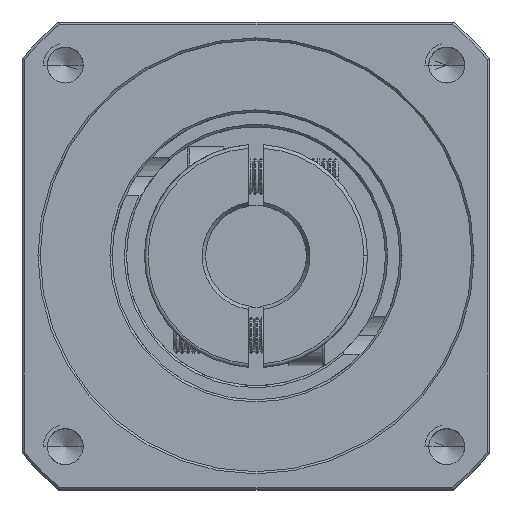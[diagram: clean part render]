
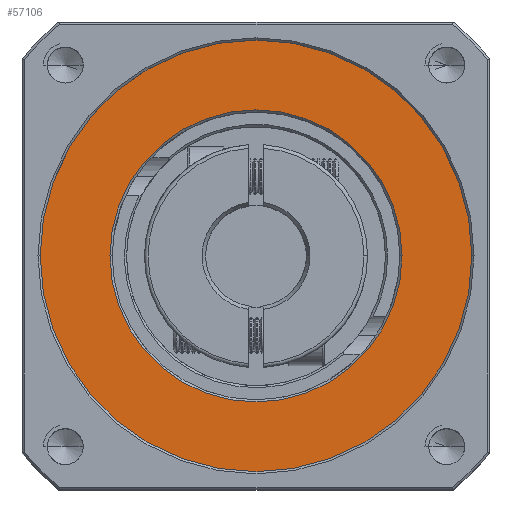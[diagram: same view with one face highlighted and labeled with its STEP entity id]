
A CAD part, top view. The second image highlights one B-rep face of the part: STEP entity #57106.
In plain terms, the highlighted planar face has unit normal (0, 0, 1).
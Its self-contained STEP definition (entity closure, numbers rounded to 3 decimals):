
#3453 = FACE_OUTER_BOUND ( 'NONE', #82689, .T. ) ;
#3854 = CARTESIAN_POINT ( 'NONE',  ( -35.47, 28.173, 12.447 ) ) ;
#4460 = CARTESIAN_POINT ( 'NONE',  ( -65.47, 28.173, 12.447 ) ) ;
#10359 = CARTESIAN_POINT ( 'NONE',  ( -65.47, 28.173, 12.447 ) ) ;
#12383 = DIRECTION ( 'NONE',  ( 1., 0., 0. ) ) ;
#13137 = EDGE_CURVE ( 'NONE', #53176, #86193, #80871, .T. ) ;
#13407 = DIRECTION ( 'NONE',  ( 0., 0., 1. ) ) ;
#16648 = CARTESIAN_POINT ( 'NONE',  ( -65.47, 28.173, 12.447 ) ) ;
#18222 = DIRECTION ( 'NONE',  ( 1., 0., 0. ) ) ;
#18937 = AXIS2_PLACEMENT_3D ( 'NONE', #10359, #65363, #18222 ) ;
#24555 = DIRECTION ( 'NONE',  ( 1., 0., 0. ) ) ;
#25109 = VERTEX_POINT ( 'NONE', #57705 ) ;
#25266 = DIRECTION ( 'NONE',  ( 0., 0., -1. ) ) ;
#34378 = CIRCLE ( 'NONE', #97779, 20.3 ) ;
#36932 = CARTESIAN_POINT ( 'NONE',  ( -45.17, 28.173, 12.447 ) ) ;
#38276 = CARTESIAN_POINT ( 'NONE',  ( -85.77, 28.173, 12.447 ) ) ;
#40339 = EDGE_LOOP ( 'NONE', ( #87286, #78013 ) ) ;
#40770 = ORIENTED_EDGE ( 'NONE', *, *, #84839, .T. ) ;
#47432 = AXIS2_PLACEMENT_3D ( 'NONE', #4460, #59455, #12383 ) ;
#53176 = VERTEX_POINT ( 'NONE', #38276 ) ;
#57106 = ADVANCED_FACE ( 'NONE', ( #63675, #3453 ), #74885, .T. ) ;
#57705 = CARTESIAN_POINT ( 'NONE',  ( -95.47, 28.173, 12.447 ) ) ;
#59455 = DIRECTION ( 'NONE',  ( 0., 0., 1. ) ) ;
#60463 = CARTESIAN_POINT ( 'NONE',  ( -65.47, 28.173, 12.447 ) ) ;
#63675 = FACE_BOUND ( 'NONE', #40339, .T. ) ;
#65363 = DIRECTION ( 'NONE',  ( 0., 0., 1. ) ) ;
#66411 = EDGE_CURVE ( 'NONE', #86193, #53176, #34378, .T. ) ;
#68409 = DIRECTION ( 'NONE',  ( 1., 0., 0. ) ) ;
#71642 = DIRECTION ( 'NONE',  ( 0., 0., -1. ) ) ;
#72373 = CARTESIAN_POINT ( 'NONE',  ( -65.47, 28.173, 12.447 ) ) ;
#74885 = PLANE ( 'NONE',  #47432 ) ;
#74990 = CIRCLE ( 'NONE', #18937, 30. ) ;
#78013 = ORIENTED_EDGE ( 'NONE', *, *, #13137, .T. ) ;
#79270 = CIRCLE ( 'NONE', #92219, 30. ) ;
#80233 = DIRECTION ( 'NONE',  ( 1., 0., 0. ) ) ;
#80871 = CIRCLE ( 'NONE', #99776, 20.3 ) ;
#82689 = EDGE_LOOP ( 'NONE', ( #90547, #40770 ) ) ;
#84839 = EDGE_CURVE ( 'NONE', #25109, #88975, #74990, .T. ) ;
#86193 = VERTEX_POINT ( 'NONE', #36932 ) ;
#87286 = ORIENTED_EDGE ( 'NONE', *, *, #66411, .T. ) ;
#87740 = EDGE_CURVE ( 'NONE', #88975, #25109, #79270, .T. ) ;
#88975 = VERTEX_POINT ( 'NONE', #3854 ) ;
#90547 = ORIENTED_EDGE ( 'NONE', *, *, #87740, .T. ) ;
#92219 = AXIS2_PLACEMENT_3D ( 'NONE', #60463, #13407, #68409 ) ;
#97779 = AXIS2_PLACEMENT_3D ( 'NONE', #16648, #71642, #24555 ) ;
#99776 = AXIS2_PLACEMENT_3D ( 'NONE', #72373, #25266, #80233 ) ;
